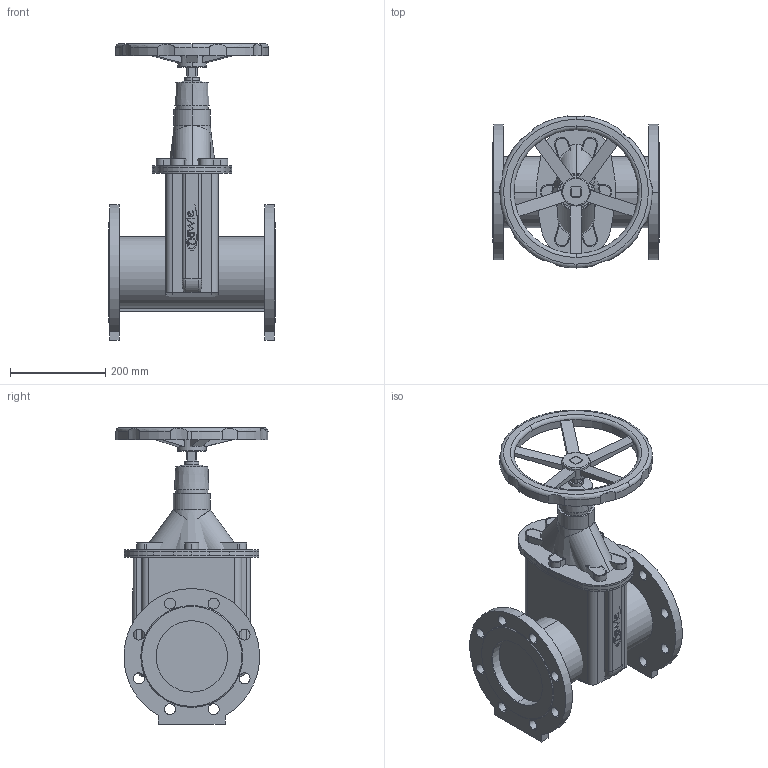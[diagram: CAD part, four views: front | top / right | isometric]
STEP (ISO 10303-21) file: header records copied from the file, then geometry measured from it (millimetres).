
FILE_DESCRIPTION(('STEP AP214'),'1');
FILE_NAME('S:/EK/USER/CAT6/3DHomepage/4700E2/4700E2-PN16-DN150-HANDRAD.STP','2012-04-23T12:27:26',(' '),(' '),'Spatial InterOp 3D',' ',' ');
FILE_SCHEMA(('automotive_design'));
Length unit declared in the file: millimetre
Products named in the file (53): 3D-Objekt
Bounding box: 350 x 318.96 x 622.5 mm (x, y, z)
Volume: 16217407 mm3; surface area: 1434790 mm2
Topology: 53 solids, 53 shells, 544 faces, 1294 edges, 864 vertices
Faces by surface type: plane 283, cylinder 235, torus 12, cone 10, bspline 4
Entity records: 21905 total; most frequent: CARTESIAN_POINT 3117, DIRECTION 3010, ORIENTED_EDGE 2588, EDGE_CURVE 1294, AXIS2_PLACEMENT_3D 1133, VERTEX_POINT 864, LINE 744, VECTOR 744
